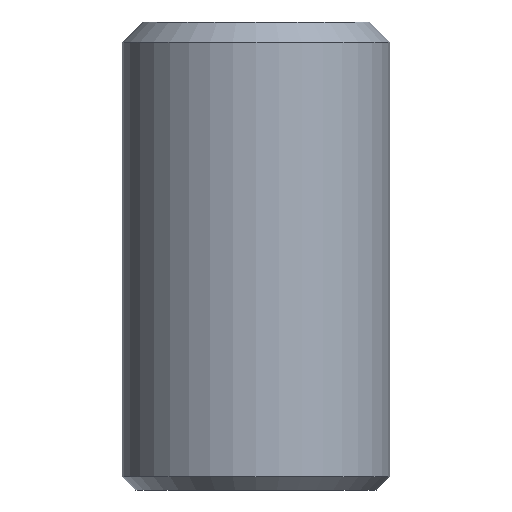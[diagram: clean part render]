
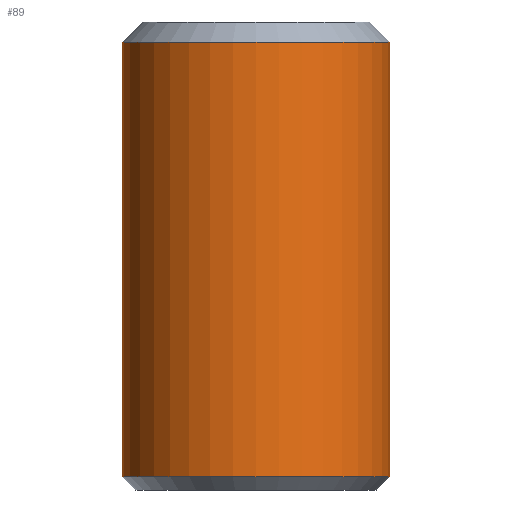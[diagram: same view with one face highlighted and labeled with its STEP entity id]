
A CAD part, front view. The second image highlights one B-rep face of the part: STEP entity #89.
In plain terms, the highlighted cylindrical face has radius 10 mm (diameter 20 mm), a full revolution.
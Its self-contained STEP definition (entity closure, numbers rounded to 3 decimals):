
#23=FACE_OUTER_BOUND('',#29,.T.);
#29=EDGE_LOOP('',(#73,#74,#75,#76));
#37=LINE('',#165,#41);
#41=VECTOR('',#139,10.);
#45=CIRCLE('',#111,10.);
#47=CIRCLE('',#114,10.);
#51=VERTEX_POINT('',#157);
#53=VERTEX_POINT('',#163);
#58=EDGE_CURVE('',#51,#51,#45,.T.);
#61=EDGE_CURVE('',#53,#53,#47,.T.);
#62=EDGE_CURVE('',#53,#51,#37,.T.);
#73=ORIENTED_EDGE('',*,*,#61,.F.);
#74=ORIENTED_EDGE('',*,*,#62,.T.);
#75=ORIENTED_EDGE('',*,*,#58,.F.);
#76=ORIENTED_EDGE('',*,*,#62,.F.);
#86=CYLINDRICAL_SURFACE('',#113,10.);
#89=ADVANCED_FACE('',(#23),#86,.T.);
#111=AXIS2_PLACEMENT_3D('',#158,#130,#131);
#113=AXIS2_PLACEMENT_3D('',#162,#135,#136);
#114=AXIS2_PLACEMENT_3D('',#164,#137,#138);
#130=DIRECTION('center_axis',(0.,0.,-1.));
#131=DIRECTION('ref_axis',(-1.,0.,0.));
#135=DIRECTION('center_axis',(0.,0.,1.));
#136=DIRECTION('ref_axis',(-1.,0.,0.));
#137=DIRECTION('center_axis',(0.,0.,1.));
#138=DIRECTION('ref_axis',(-1.,0.,0.));
#139=DIRECTION('',(0.,0.,-1.));
#157=CARTESIAN_POINT('',(-85.,95.,5.));
#158=CARTESIAN_POINT('Origin',(-95.,95.,5.));
#162=CARTESIAN_POINT('Origin',(-95.,95.,4.));
#163=CARTESIAN_POINT('',(-85.,95.,37.5));
#164=CARTESIAN_POINT('Origin',(-95.,95.,37.5));
#165=CARTESIAN_POINT('',(-85.,95.,4.));
